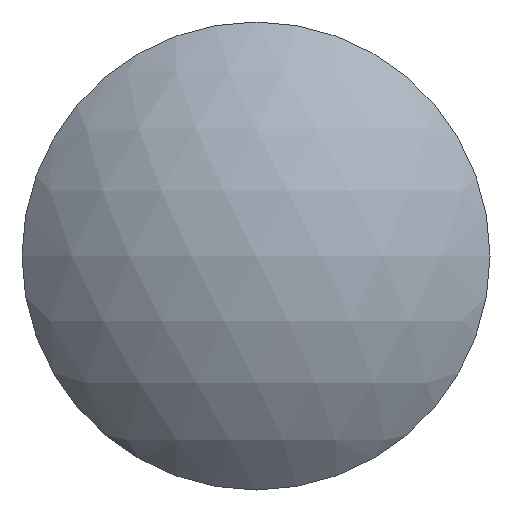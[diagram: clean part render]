
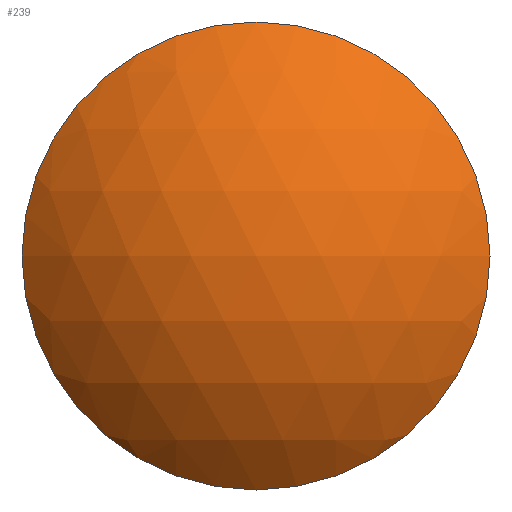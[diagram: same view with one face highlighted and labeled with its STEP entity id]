
A CAD part, left-side view. The second image highlights one B-rep face of the part: STEP entity #239.
In plain terms, the highlighted spherical face has radius 12.5 mm.
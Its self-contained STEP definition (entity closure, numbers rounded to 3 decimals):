
#15=SPHERICAL_SURFACE('',#282,12.5);
#41=FACE_OUTER_BOUND('',#56,.T.);
#56=EDGE_LOOP('',(#201,#202));
#99=CIRCLE('',#283,9.);
#100=CIRCLE('',#284,9.);
#122=VERTEX_POINT('',#427);
#123=VERTEX_POINT('',#428);
#152=EDGE_CURVE('',#122,#123,#99,.T.);
#153=EDGE_CURVE('',#123,#122,#100,.T.);
#201=ORIENTED_EDGE('',*,*,#152,.F.);
#202=ORIENTED_EDGE('',*,*,#153,.F.);
#239=ADVANCED_FACE('',(#41),#15,.T.);
#282=AXIS2_PLACEMENT_3D('',#426,#342,#343);
#283=AXIS2_PLACEMENT_3D('',#429,#344,#345);
#284=AXIS2_PLACEMENT_3D('',#430,#346,#347);
#342=DIRECTION('center_axis',(0.,0.,
1.));
#343=DIRECTION('ref_axis',(-1.,-0.006,0.));
#344=DIRECTION('center_axis',(1.,0.,0.));
#345=DIRECTION('ref_axis',(0.,1.,0.));
#346=DIRECTION('center_axis',(1.,0.,0.));
#347=DIRECTION('ref_axis',(0.,1.,0.));
#426=CARTESIAN_POINT('Origin',(7.7,0.,0.));
#427=CARTESIAN_POINT('',(-0.975,9.,0.));
#428=CARTESIAN_POINT('',(-0.975,-9.,0.));
#429=CARTESIAN_POINT('Origin',(-0.975,0.,
0.));
#430=CARTESIAN_POINT('Origin',(-0.975,0.,
0.));
